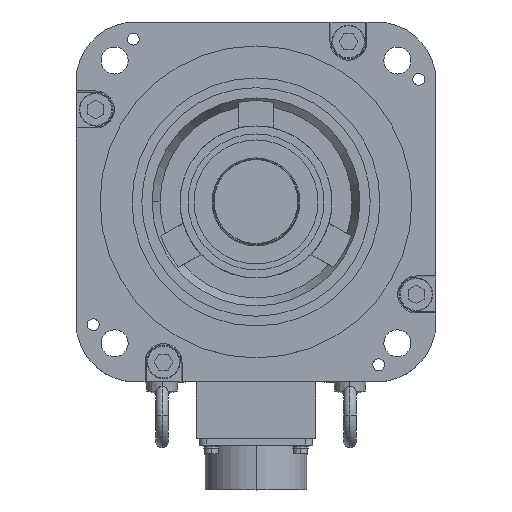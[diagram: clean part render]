
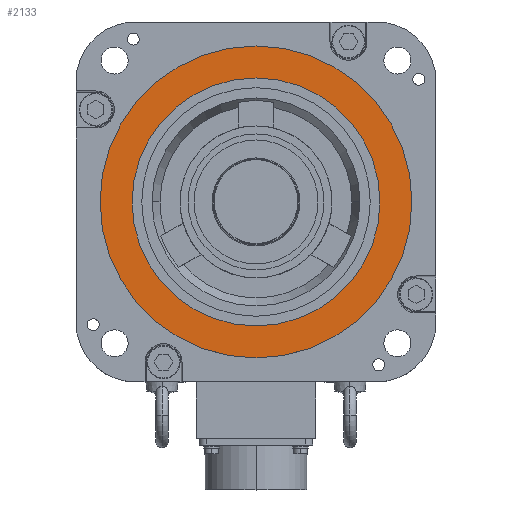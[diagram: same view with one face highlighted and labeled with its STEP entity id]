
A CAD part, top view. The second image highlights one B-rep face of the part: STEP entity #2133.
In plain terms, the highlighted planar face has unit normal (0, 0, 1).
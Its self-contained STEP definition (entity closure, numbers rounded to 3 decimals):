
#632 = VERTEX_POINT ( 'NONE', #9013 ) ;
#634 = EDGE_CURVE ( 'NONE', #632, #685, #9072, .T. ) ;
#685 = VERTEX_POINT ( 'NONE', #9158 ) ;
#691 = EDGE_CURVE ( 'NONE', #692, #693, #9146, .T. ) ;
#692 = VERTEX_POINT ( 'NONE', #9142 ) ;
#693 = VERTEX_POINT ( 'NONE', #9141 ) ;
#2110 = ORIENTED_EDGE ( 'NONE', *, *, #691, .T. ) ;
#2111 = EDGE_LOOP ( 'NONE', ( #2112, #2114 ) ) ;
#2112 = ORIENTED_EDGE ( 'NONE', *, *, #2113, .F. ) ;
#2113 = EDGE_CURVE ( 'NONE', #685, #632, #12015, .T. ) ;
#2114 = ORIENTED_EDGE ( 'NONE', *, *, #634, .F. ) ;
#2133 = ADVANCED_FACE ( 'NONE', ( #12108, #12107 ), #12106, .T. ) ;
#2134 = EDGE_LOOP ( 'NONE', ( #2135, #2110 ) ) ;
#2135 = ORIENTED_EDGE ( 'NONE', *, *, #2136, .T. ) ;
#2136 = EDGE_CURVE ( 'NONE', #693, #692, #12101, .T. ) ;
#9013 = CARTESIAN_POINT ( 'NONE',  ( 62., 0., -0.5 ) ) ;
#9068 = DIRECTION ( 'NONE',  ( 1., 0., 0. ) ) ;
#9069 = DIRECTION ( 'NONE',  ( 0., 0., 1. ) ) ;
#9070 = CARTESIAN_POINT ( 'NONE',  ( 0., 0., -0.5 ) ) ;
#9071 = AXIS2_PLACEMENT_3D ( 'NONE', #9070, #9069, #9068 ) ;
#9072 = CIRCLE ( 'NONE', #9071, 62. ) ;
#9141 = CARTESIAN_POINT ( 'NONE',  ( 78., 0., -0.5 ) ) ;
#9142 = CARTESIAN_POINT ( 'NONE',  ( -78., 0., -0.5 ) ) ;
#9143 = DIRECTION ( 'NONE',  ( 1., 0., 0. ) ) ;
#9144 = DIRECTION ( 'NONE',  ( 0., 0., 1. ) ) ;
#9145 = AXIS2_PLACEMENT_3D ( 'NONE', #9151, #9144, #9143 ) ;
#9146 = CIRCLE ( 'NONE', #9145, 78. ) ;
#9151 = CARTESIAN_POINT ( 'NONE',  ( 0., 0., -0.5 ) ) ;
#9158 = CARTESIAN_POINT ( 'NONE',  ( -62., 0., -0.5 ) ) ;
#12015 = CIRCLE ( 'NONE', #12080, 62. ) ;
#12077 = DIRECTION ( 'NONE',  ( 1., 0., 0. ) ) ;
#12078 = DIRECTION ( 'NONE',  ( 0., 0., 1. ) ) ;
#12079 = CARTESIAN_POINT ( 'NONE',  ( 0., 0., -0.5 ) ) ;
#12080 = AXIS2_PLACEMENT_3D ( 'NONE', #12079, #12078, #12077 ) ;
#12097 = DIRECTION ( 'NONE',  ( 1., 0., 0. ) ) ;
#12098 = DIRECTION ( 'NONE',  ( 0., 0., 1. ) ) ;
#12099 = CARTESIAN_POINT ( 'NONE',  ( 0., 0., -0.5 ) ) ;
#12100 = AXIS2_PLACEMENT_3D ( 'NONE', #12099, #12098, #12097 ) ;
#12101 = CIRCLE ( 'NONE', #12100, 78. ) ;
#12102 = DIRECTION ( 'NONE',  ( 1., 0., 0. ) ) ;
#12103 = DIRECTION ( 'NONE',  ( 0., 0., 1. ) ) ;
#12104 = CARTESIAN_POINT ( 'NONE',  ( 0., 0., -0.5 ) ) ;
#12105 = AXIS2_PLACEMENT_3D ( 'NONE', #12104, #12103, #12102 ) ;
#12106 = PLANE ( 'NONE',  #12105 ) ;
#12107 = FACE_BOUND ( 'NONE', #2111, .T. ) ;
#12108 = FACE_OUTER_BOUND ( 'NONE', #2134, .T. ) ;
